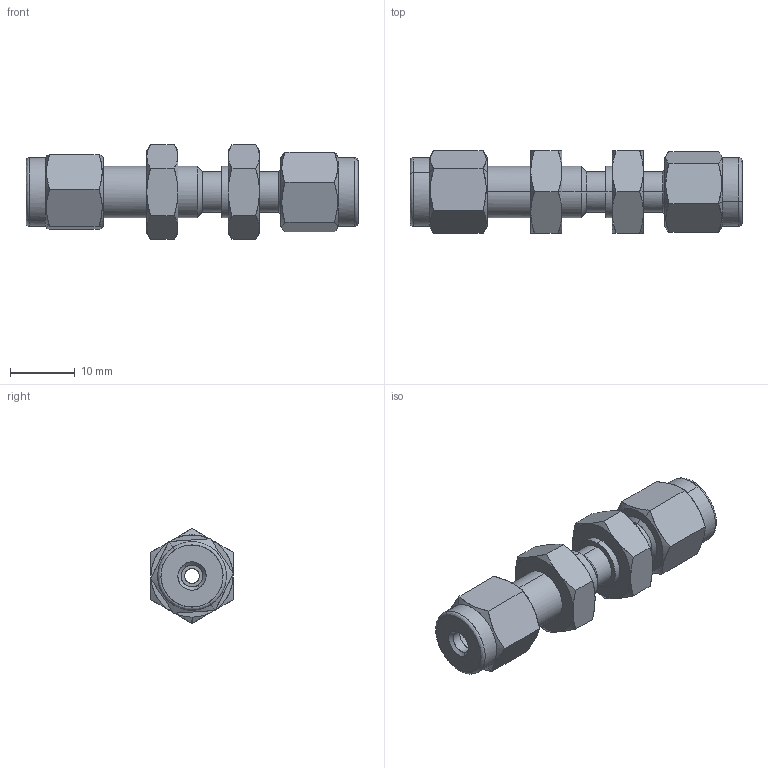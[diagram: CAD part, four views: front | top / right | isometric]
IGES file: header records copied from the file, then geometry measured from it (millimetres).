
Start section: Comment
Global section: file name: SBHU-2.igs; native system:  By UGS Corp.; preprocessor: XPlus GENERIC/IGES 3.0; author: Author; organization: Title; date: 20100528.112544; units: millimetre
Bounding box: 51.3 x 12.8 x 14.66 mm (x, y, z)
Surface area: 3751.9 mm2 (no closed solid volume)
Topology: 0 solids, 0 shells, 139 faces, 588 edges, 588 vertices
Faces by surface type: bspline 139
